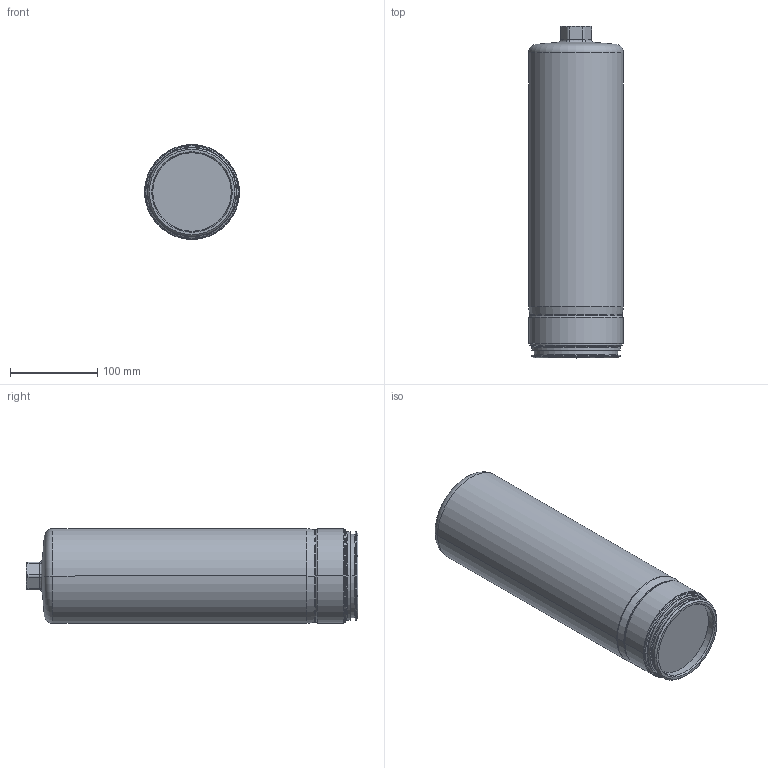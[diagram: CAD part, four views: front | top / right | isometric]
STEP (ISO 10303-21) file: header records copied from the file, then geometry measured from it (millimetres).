
FILE_DESCRIPTION((''),'2;1');
FILE_NAME('14534500_201679','2019-07-04T',('c.kretz'),(''),'PRO/ENGINEER BY PARAMETRIC TECHNOLOGY CORPORATION, 2015110','PRO/ENGINEER BY PARAMETRIC TECHNOLOGY CORPORATION, 2015110','');
FILE_SCHEMA(('AUTOMOTIVE_DESIGN { 1 0 10303 214 1 1 1 1 }'));
Length unit declared in the file: millimetre
Products named in the file (1): 14534500_201679
Bounding box: 109 x 381 x 109 mm (x, y, z)
Volume: 3278949.8 mm3; surface area: 145413.7 mm2
Topology: 1 solids, 1 shells, 84 faces, 187 edges, 109 vertices
Faces by surface type: cylinder 22, cone 21, torus 16, bspline 13, plane 12
Entity records: 4161 total; most frequent: CARTESIAN_POINT 951, ORIENTED_EDGE 374, DIRECTION 347, PRESENTATION_STYLE_ASSIGNMENT 215, STYLED_ITEM 188, CURVE_STYLE 187, EDGE_CURVE 187, AXIS2_PLACEMENT_3D 149
